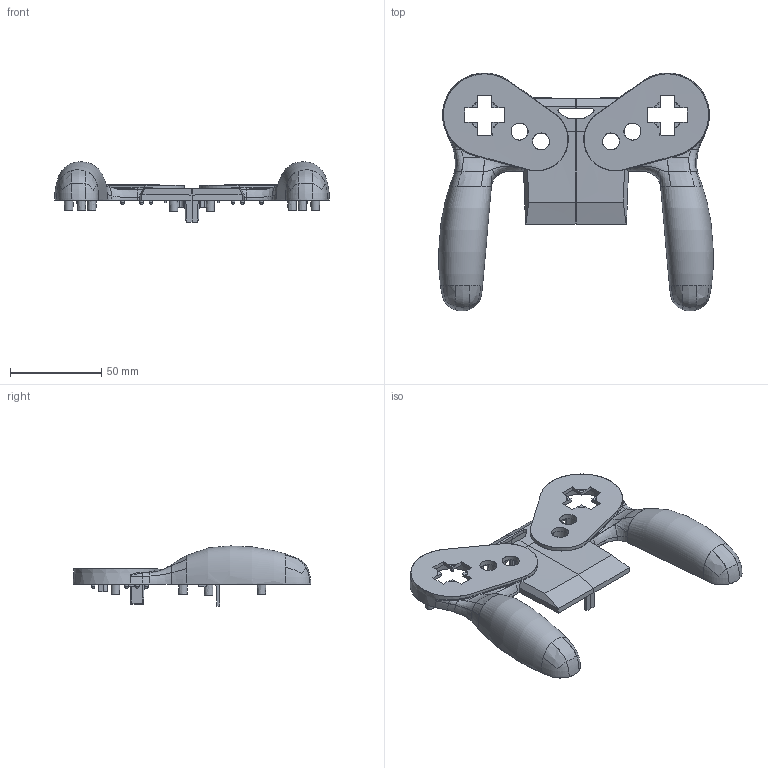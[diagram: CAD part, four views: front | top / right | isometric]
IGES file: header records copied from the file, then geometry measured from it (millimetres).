
Bounding box: 150.31 x 130.15 x 32.91 mm (x, y, z)
Surface area: 45228.5 mm2 (no closed solid volume)
Topology: 0 solids, 0 shells, 750 faces, 4244 edges, 4110 vertices
Faces by surface type: bspline 604, revolution 118, extrusion 28
